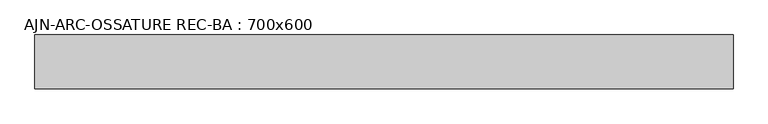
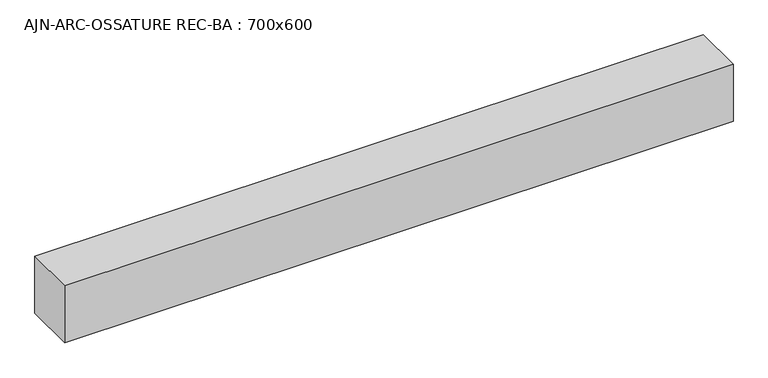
"""IFC4 building model written with IfcOpenShell, lengths in millimetres: beam geometry, AJN-ARC-OSSATURE REC-BA : 700x600."""

from ifc_helpers import new_model, si_unit, frame, origin, place, context, project, spatial, polyline, outline, extrude, source, transform, mapped, element, save


def ajn_arc_ossature_rec_ba_700x600_4319a5e8(model_context):
    return source(origin(), model_context, "Body", "SweptSolid", [
        extrude(outline(polyline([(4050.0, 300.0), (4050.0, -300.0), (-3737.3, -300.0), (-3737.3, 300.0), (4050.0, 300.0)])), frame((0.0, 0.0, -350.0), z_axis=(0.0, 0.0, 1.0), x_axis=(1.0, 0.0, 0.0)), (0.0, 0.0, 1.0), 700.0),
    ])


if __name__ == "__main__":
    model = new_model("IFC4")
    model_context = context("Model", 3, world=origin())
    ifc_project = project(units=[si_unit("LENGTHUNIT", "METRE", prefix="MILLI")], contexts=[model_context])
    site = spatial("IfcSite", under=ifc_project)
    building = spatial("IfcBuilding", under=site)
    placement = place(None, origin())
    ajn_arc_ossature_rec_ba_700x600_shape = ajn_arc_ossature_rec_ba_700x600_4319a5e8(model_context)
    element("IfcBeam", 1, ObjectType="AJN-ARC-OSSATURE REC-BA : 700x600", at=placement, inside=building, context=model_context, shape_type="MappedRepresentation", body=[
        mapped(ajn_arc_ossature_rec_ba_700x600_shape, transform((0.0, 0.0, 0.0), x_axis=(1.0, 0.0, 0.0), y_axis=(0.0, 1.0, 0.0), z_axis=(0.0, 0.0, 1.0))),
    ])
    save(model, "model.ifc")
